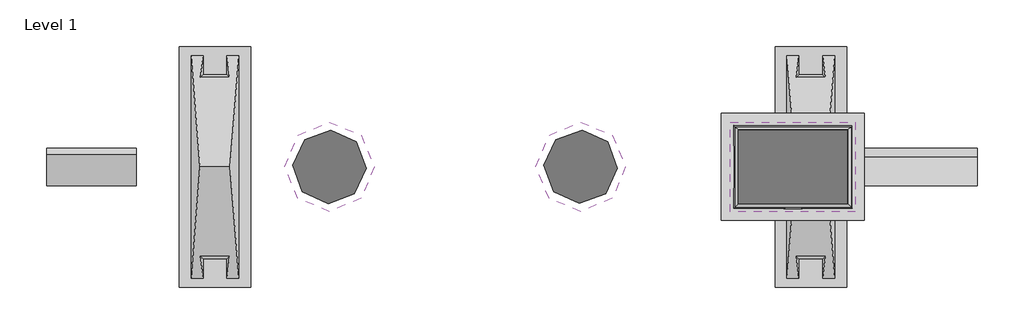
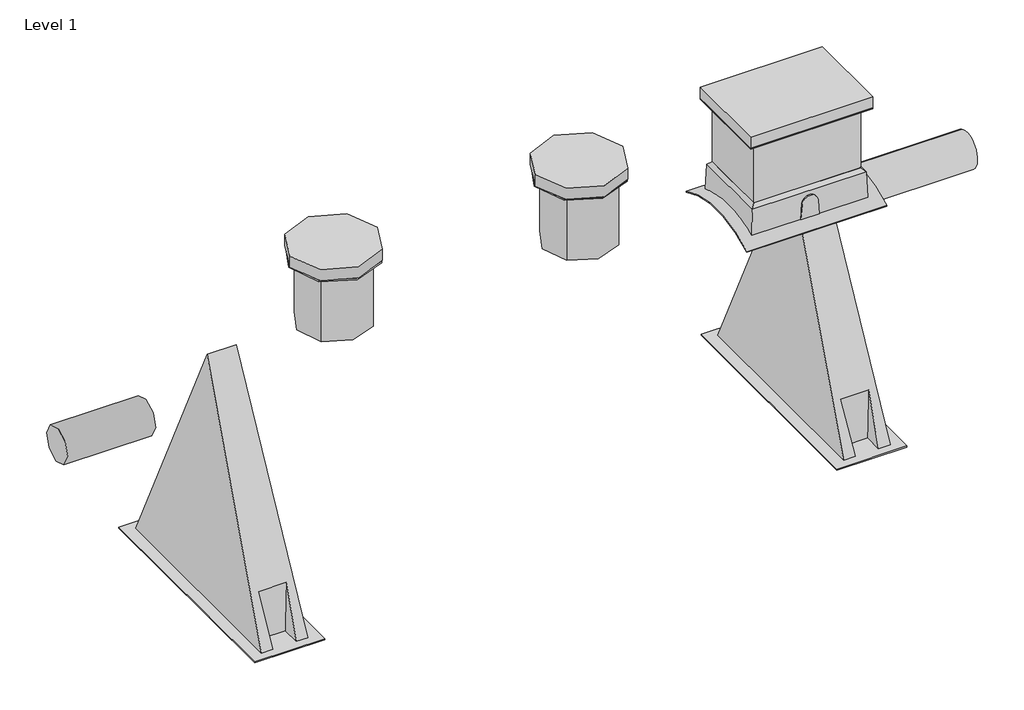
# One storey, incomplete: 11 proxies.
"""IFC4 building model written with IfcOpenShell, lengths in millimetres."""

import ifcopenshell
import ifcopenshell.guid

model = None  # the IFC model being written
_history = None  # IfcOwnerHistory: only IFC2X3 demands one
_inside = {}  # id of a spatial element -> (the spatial element, [elements in it])
_under = {}  # id of a project, library or spatial element -> (it, [spatial elements below it])
_declared = {}  # id of a project -> (the project, [libraries it declares])
_typed = {}  # id of a type object -> (the type object, [elements of that type])
_made_of = {}  # id of a material, layer set ... -> (it, [elements and type objects made of it])


def new_model(schema):
    """Start an empty IFC model of exactly this schema.

    Asked for "IFC4X3", IfcOpenShell would pick the latest addendum, in which some entities
    have other attributes; the version numbers below select the first issue.
    IFC2X3 requires an IfcOwnerHistory on every rooted entity: one is made here for all.
    """
    global model, _history
    if schema == "IFC4X3":
        model = ifcopenshell.file(schema_version=(4, 3, 0, 0))
    else:
        model = ifcopenshell.file(schema=schema)
    _inside.clear()
    _under.clear()
    _declared.clear()
    _typed.clear()
    _made_of.clear()
    _history = None
    if model.schema == "IFC2X3":
        org = make("IfcOrganization", Name="unknown")
        user = make(
            "IfcPersonAndOrganization",
            ThePerson=make("IfcPerson", FamilyName="unknown"),
            TheOrganization=org,
        )
        app = make(
            "IfcApplication",
            ApplicationDeveloper=org,
            Version="unknown",
            ApplicationFullName="unknown",
            ApplicationIdentifier="unknown",
        )
        _history = make(
            "IfcOwnerHistory",
            OwningUser=user,
            OwningApplication=app,
            ChangeAction="ADDED",
            CreationDate=0,
        )
    return model


def make(cls, **values):
    """One entity of the class cls with the attributes given. An attribute that is None is left unset."""
    return model.create_entity(
        cls, **{name: value for name, value in values.items() if value is not None}
    )


def rooted(cls, **values):
    """An entity with a GlobalId (a new one), such as an element, a storey or a relation."""
    return make(cls, GlobalId=ifcopenshell.guid.new(), OwnerHistory=_history, **values)


def si_unit(unit_type, name, prefix=None):
    """IfcSIUnit, for example si_unit("LENGTHUNIT", "METRE", prefix="MILLI")."""
    return make("IfcSIUnit", UnitType=unit_type, Prefix=prefix, Name=name)


def assignment(units):
    """IfcUnitAssignment: the units of a project."""
    return None if units is None else make("IfcUnitAssignment", Units=units)


def point(xyz):
    """IfcCartesianPoint."""
    return None if xyz is None else make("IfcCartesianPoint", Coordinates=xyz)


def direction(xyz):
    """IfcDirection."""
    return None if xyz is None else make("IfcDirection", DirectionRatios=xyz)


def frame(location, z_axis=None, x_axis=None):
    """IfcAxis2Placement3D, a coordinate frame: its origin and axes. An axis left out is left unset."""
    return make(
        "IfcAxis2Placement3D",
        Location=point(location),
        Axis=direction(z_axis),
        RefDirection=direction(x_axis),
    )


def frame_2d(location, x_axis=None):
    """IfcAxis2Placement2D, a coordinate frame in the plane: its origin and x axis."""
    return make(
        "IfcAxis2Placement2D", Location=point(location), RefDirection=direction(x_axis)
    )


def origin():
    """The frame at (0, 0, 0) with its axes left unset."""
    return frame((0.0, 0.0, 0.0))


def origin_2d():
    """The frame at (0, 0) in the plane with its x axis left unset."""
    return frame_2d((0.0, 0.0))


def place(relative_to, where):
    """IfcLocalPlacement: puts the frame where relative to a parent placement (None: the world)."""
    return make(
        "IfcLocalPlacement", PlacementRelTo=relative_to, RelativePlacement=where
    )


def context(
    kind, dimensions, precision=None, world=None, true_north=None, identifier=None
):
    """IfcGeometricRepresentationContext, for example the 3D "Model" context."""
    return make(
        "IfcGeometricRepresentationContext",
        ContextIdentifier=identifier,
        ContextType=kind,
        CoordinateSpaceDimension=dimensions,
        Precision=precision,
        WorldCoordinateSystem=world,
        TrueNorth=true_north,
    )


def project(units=None, contexts=None):
    """IfcProject with its units and contexts."""
    return rooted(
        "IfcProject",
        Name="project",
        RepresentationContexts=contexts,
        UnitsInContext=assignment(units),
    )


def spatial(cls, under=None, at=None, **own):
    """A site, building, storey or space (cls), placed at a placement, below another one or the project."""
    s = rooted(cls, ObjectPlacement=at, **own)
    if under is not None:
        _under.setdefault(under.id(), (under, []))[1].append(s)
    return s


def polyline(points):
    """IfcPolyline through the points."""
    return make("IfcPolyline", Points=[point(p) for p in points])


def circle_curve(where, radius):
    """IfcCircle in the frame where."""
    return make("IfcCircle", Position=where, Radius=radius)


def ellipse_curve(where, semi_axis1, semi_axis2):
    """IfcEllipse in the frame where."""
    return make(
        "IfcEllipse", Position=where, SemiAxis1=semi_axis1, SemiAxis2=semi_axis2
    )


def trimmed(basis, trim1, trim2, sense, master):
    """IfcTrimmedCurve: the piece of a basis curve between two trims."""
    return make(
        "IfcTrimmedCurve",
        BasisCurve=basis,
        Trim1=trim1,
        Trim2=trim2,
        SenseAgreement=sense,
        MasterRepresentation=master,
    )


def segment(curve, same_sense, transition):
    """IfcCompositeCurveSegment."""
    return make(
        "IfcCompositeCurveSegment",
        Transition=transition,
        SameSense=same_sense,
        ParentCurve=curve,
    )


def composite_curve(segments, self_intersect=None):
    """IfcCompositeCurve: segments joined end to end."""
    return make("IfcCompositeCurve", Segments=segments, SelfIntersect=self_intersect)


def outline(outer, holes=None, kind="AREA"):
    """IfcArbitraryClosedProfileDef: a profile drawn as a closed curve; with holes, ...WithVoids."""
    if holes is None:
        return make("IfcArbitraryClosedProfileDef", ProfileType=kind, OuterCurve=outer)
    return make(
        "IfcArbitraryProfileDefWithVoids",
        ProfileType=kind,
        OuterCurve=outer,
        InnerCurves=holes,
    )


def extrude(swept, where, along, depth):
    """IfcExtrudedAreaSolid: the profile swept, set in the frame where, extruded along a direction by depth."""
    return make(
        "IfcExtrudedAreaSolid",
        SweptArea=swept,
        Position=where,
        ExtrudedDirection=direction(along),
        Depth=depth,
    )


def faces_of(points, faces, orient=None, outer=None):
    """IfcFace entities. A face is a list of loops; a loop is a list of indices into points, from 0.

    orient and outer hold one flag for each loop. By default every Orientation is true, the
    first loop of a face is its IfcFaceOuterBound and the others are IfcFaceBound.
    """
    made = []
    for i, loops in enumerate(faces):
        bounds = []
        for j, loop in enumerate(loops):
            is_outer = j == 0 if outer is None else outer[i][j]
            bounds.append(
                make(
                    "IfcFaceOuterBound" if is_outer else "IfcFaceBound",
                    Bound=make("IfcPolyLoop", Polygon=[points[k] for k in loop]),
                    Orientation=True if orient is None else orient[i][j],
                )
            )
        made.append(make("IfcFace", Bounds=bounds))
    return made


def faceted_brep(points, faces, orient=None, outer=None, voids=None):
    """IfcFacetedBrep: a solid bounded by flat faces; with voids (closed shells), ...WithVoids."""
    shared = [point(p) for p in points]
    hull = make("IfcClosedShell", CfsFaces=faces_of(shared, faces, orient, outer))
    if voids is None:
        return make("IfcFacetedBrep", Outer=hull)
    return make(
        "IfcFacetedBrepWithVoids",
        Outer=hull,
        Voids=[
            make(cls, CfsFaces=faces_of(shared, fs, o, b)) for cls, fs, o, b in voids
        ],
    )


def shape(context_of_items, identifier, shape_type, items):
    """IfcShapeRepresentation: the items that make up one representation, for example the "Body"."""
    return make(
        "IfcShapeRepresentation",
        ContextOfItems=context_of_items,
        RepresentationIdentifier=identifier,
        RepresentationType=shape_type,
        Items=items,
    )


def source(mapping_origin, context_of_items, identifier, shape_type, items):
    """IfcRepresentationMap: a shape defined once, which mapped items show again and again."""
    return make(
        "IfcRepresentationMap",
        MappingOrigin=mapping_origin,
        MappedRepresentation=shape(context_of_items, identifier, shape_type, items),
    )


def transform(
    local_origin,
    x_axis=None,
    y_axis=None,
    z_axis=None,
    scale=None,
    scale2=None,
    scale3=None,
    uniform=True,
):
    """IfcCartesianTransformationOperator3D, or its non-uniform kind. x_axis, y_axis, z_axis: its Axis1, 2, 3."""
    if uniform:
        return make(
            "IfcCartesianTransformationOperator3D",
            Axis1=direction(x_axis),
            Axis2=direction(y_axis),
            LocalOrigin=point(local_origin),
            Scale=scale,
            Axis3=direction(z_axis),
        )
    return make(
        "IfcCartesianTransformationOperator3DnonUniform",
        Axis1=direction(x_axis),
        Axis2=direction(y_axis),
        LocalOrigin=point(local_origin),
        Scale=scale,
        Axis3=direction(z_axis),
        Scale2=scale2,
        Scale3=scale3,
    )


def mapped(mapping_source, mapping_target):
    """IfcMappedItem: shows the shape of a source again, moved by a transform."""
    return make(
        "IfcMappedItem", MappingSource=mapping_source, MappingTarget=mapping_target
    )


def made_of(thing, what):
    """Note that an element or type object is made of a material, layer set ...; save() writes the relation."""
    if what is not None:
        _made_of.setdefault(what.id(), (what, []))[1].append(thing)
    return thing


def element(
    cls,
    number,
    at=None,
    inside=None,
    cuts=None,
    type_object=None,
    material=None,
    context=None,
    identifier="Body",
    shape_type=None,
    held_by="IfcProductDefinitionShape",
    body=None,
    shapes=None,
    **own,
):
    """One element of the class cls, such as IfcWall. Its Tag is "e" and its number.

    at: its placement. inside: the storey or other place that contains it. cuts: it is an
    opening in that element (IfcRelVoidsElement). A single representation is given by context,
    identifier, shape_type and body (its items); several are given by shapes. held_by: the class
    of the entity that holds the representations. save() writes the other relations.
    """
    e = rooted(cls, Tag="e%d" % number, ObjectPlacement=at, **own)
    if body is not None:
        shapes = [shape(context, identifier, shape_type, body)]
    if shapes is not None:
        e.Representation = make(held_by, Representations=shapes)
    if inside is not None:
        _inside.setdefault(inside.id(), (inside, []))[1].append(e)
    if cuts is not None:
        rooted(
            "IfcRelVoidsElement", RelatingBuildingElement=cuts, RelatedOpeningElement=e
        )
    if type_object is not None:
        _typed.setdefault(type_object.id(), (type_object, []))[1].append(e)
    return made_of(e, material)


def aggregate(whole, parts):
    """IfcRelAggregates: a whole, such as a stair, and the parts it consists of."""
    return rooted("IfcRelAggregates", RelatingObject=whole, RelatedObjects=parts)


def save(model, path):
    """Write the relations noted so far, then the file.

    IfcRelAggregates (storeys below a building ...), IfcRelContainedInSpatialStructure (elements
    in a storey), IfcRelDefinesByType, IfcRelAssociatesMaterial and IfcRelDeclares: one each for
    every whole, place, type object, material and project.
    """
    for whole, parts in _under.values():
        aggregate(whole, parts)
    for where, things in _inside.values():
        rooted(
            "IfcRelContainedInSpatialStructure",
            RelatedElements=things,
            RelatingStructure=where,
        )
    for kind, things in _typed.values():
        rooted("IfcRelDefinesByType", RelatedObjects=things, RelatingType=kind)
    for what, things in _made_of.values():
        rooted("IfcRelAssociatesMaterial", RelatedObjects=things, RelatingMaterial=what)
    for by, libraries in _declared.values():
        rooted("IfcRelDeclares", RelatingContext=by, RelatedDefinitions=libraries)
    model.write(path)


def plane_surface(at):
    """IfcPlane: the flat surface through the origin of the frame at, square to its z axis."""
    return make("IfcPlane", Position=at)


def cylinder_surface(at, radius):
    """IfcCylindricalSurface: all points at the distance radius from the z axis of the frame at."""
    return make("IfcCylindricalSurface", Position=at, Radius=radius)


def revolved_surface(curve, axis_point, axis_direction):
    """IfcSurfaceOfRevolution: the curve turned about the line through axis_point along axis_direction."""
    return make(
        "IfcSurfaceOfRevolution",
        SweptCurve=make("IfcArbitraryOpenProfileDef", ProfileType="CURVE", Curve=curve),
        AxisPosition=make("IfcAxis1Placement", Location=point(axis_point), Axis=direction(axis_direction)),
    )


def advanced_brep(points, edges, surfaces, faces):
    """IfcAdvancedBrep: a solid bounded by faces that lie on surfaces and meet in shared edges.

    An edge is (start, end): straight between two places in points (the first is 0);
    or (start, end, curve); or (start, end, curve, False) where it runs against its curve.
    A face is (place in surfaces, loops), or (place, loops, False) where it looks against
    its surface's normal. A loop lists edges by number (the first is 1), with a minus sign
    where the edge is run from its end to its start. The first loop is the outer one.
    """
    corners = [point(p) for p in points]
    vertices = [make("IfcVertexPoint", VertexGeometry=c) for c in corners]
    made = []
    for start, end, *more in edges:
        made.append(
            make(
                "IfcEdgeCurve",
                EdgeStart=vertices[start],
                EdgeEnd=vertices[end],
                EdgeGeometry=more[0] if more else make("IfcPolyline", Points=[corners[start], corners[end]]),
                SameSense=more[1] if len(more) > 1 else True,
            )
        )
    hull = []
    for where, loops, *sense in faces:
        bounds = []
        for j, loop in enumerate(loops):
            ring = [make("IfcOrientedEdge", EdgeElement=made[abs(k) - 1], Orientation=k > 0) for k in loop]
            bounds.append(
                make(
                    "IfcFaceOuterBound" if j == 0 else "IfcFaceBound",
                    Bound=make("IfcEdgeLoop", EdgeList=ring),
                    Orientation=True,
                )
            )
        hull.append(make("IfcAdvancedFace", Bounds=bounds, FaceSurface=surfaces[where], SameSense=sense[0] if sense else True))
    return make("IfcAdvancedBrep", Outer=make("IfcClosedShell", CfsFaces=hull))


def generic_models_efd85da4(model_context):
    return source(origin(), model_context, "Body", "SweptSolid", [
        extrude(outline(polyline([(-375.0, 0.0), (-375.0, 100.0), (375.0, 100.0), (375.0, 0.0), (-375.0, 0.0)])), frame((0.0, 0.0, -525.0), z_axis=(0.0, 0.0, 1.0), x_axis=(1.0, 0.0, 0.0)), (0.0, 0.0, 1.0), 1050.0),
    ])


def generic_models_57929f39(model_context):
    return source(origin(), model_context, "Body", "Brep", [
        faceted_brep([(934.0, 0.0, 0.0), (0.0, 2118.0, 73.9621898), (0.0, 2118.0, 326.0378102), (934.0, 0.0, 400.0), (934.0, 0.0, 300.0), (750.3777149, 416.394004, 321.8222851), (750.3777149, 416.394004, 78.1777149), (934.0, 0.0, 100.0), (-934.0, 0.0, 400.0), (772.2, 0.0, 300.0), (772.2, 0.0, 100.0), (-934.0, 0.0, 0.0), (-934.0, 0.0, 100.0), (-750.3777149, 416.394004, 78.1777149), (-750.3777149, 416.394004, 321.8222851), (-934.0, 0.0, 300.0), (-772.2, 0.0, 100.0), (-772.2, 0.0, 300.0), (-1009.0, 0.0, 500.0), (1009.0, 0.0, 500.0), (1009.0, 0.0, -100.0), (-1009.0, 0.0, -100.0), (-1009.0, -10.0, 500.0), (-1009.0, -10.0, -100.0), (1009.0, -10.0, -100.0), (1009.0, -10.0, 500.0)], [[[0, 1, 2, 3, 4, 5, 6, 7]], [[3, 2, 8]], [[4, 9, 5]], [[9, 10, 6, 5]], [[10, 7, 6]], [[1, 11, 12, 13, 14, 15, 8, 2]], [[13, 16, 17, 14]], [[18, 19, 20, 21], [3, 8, 15, 17, 16, 12, 11, 0, 7, 10, 9, 4]], [[1, 0, 11]], [[14, 17, 15]], [[22, 23, 24, 25]], [[12, 16, 13]], [[19, 18, 22, 25]], [[20, 19, 25, 24]], [[21, 20, 24, 23]], [[18, 21, 23, 22]]]),
    ])


def generic_models_2a316d6d(model_context):
    return source(origin(), model_context, "Body", "SweptSolid", [
        extrude(outline(composite_curve([segment(trimmed(circle_curve(origin_2d(), 375.0), [point((0.0, 375.0))], [point((0.0, -375.0))], False, "CARTESIAN"), True, "CONTINUOUS"), segment(trimmed(circle_curve(origin_2d(), 375.0), [point((0.0, -375.0))], [point((0.0, 375.0))], False, "CARTESIAN"), True, "CONTINUOUS")], self_intersect=False)), frame((0.0, 0.0, 0.0), z_axis=(0.0, 1.0, 0.0), x_axis=(0.0, 0.0, 1.0)), (0.0, 0.0, 1.0), 100.0),
    ])


def generic_models_de51d8ae(model_context):
    return source(origin(), model_context, "Body", "AdvancedBrep", [
        advanced_brep(
        [(-375.0, 590.0, 0.0), (-375.0, 600.0, 0.0), (375.0, 600.0, 0.0), (375.0, 590.0, 0.0), (-308.0, 0.0, 0.0), (-308.0, 590.0, 0.0), (308.0, 590.0, 0.0), (308.0, 0.0, 0.0)],
        [
            (0, 1),
            (1, 2, circle_curve(frame((0.0, 600.0, 0.0), z_axis=(0.0, -1.0, 0.0), x_axis=(-1.0, 0.0, 0.0)), 375.0)),
            (2, 3),
            (3, 0, circle_curve(frame((0.0, 590.0, 0.0), z_axis=(0.0, 1.0, 0.0), x_axis=(-1.0, 0.0, 0.0)), 375.0)),
            (4, 5),
            (5, 6, circle_curve(frame((0.0, 590.0, 0.0), z_axis=(0.0, -1.0, 0.0), x_axis=(-1.0, 0.0, 0.0)), 308.0)),
            (6, 7),
            (7, 4, circle_curve(frame((0.0, 0.0, 0.0), z_axis=(0.0, 1.0, 0.0), x_axis=(-1.0, 0.0, 0.0)), 308.0)),
            (1, 2, circle_curve(frame((0.0, 600.0, 0.0), z_axis=(0.0, 1.0, 0.0), x_axis=(-1.0, 0.0, 0.0)), 375.0)),
            (7, 4, circle_curve(frame((0.0, 0.0, 0.0), z_axis=(0.0, -1.0, 0.0), x_axis=(-1.0, 0.0, 0.0)), 308.0)),
            (6, 5, circle_curve(frame((0.0, 590.0, 0.0), z_axis=(0.0, -1.0, 0.0), x_axis=(-1.0, 0.0, 0.0)), 308.0)),
            (3, 0, circle_curve(frame((0.0, 590.0, 0.0), z_axis=(0.0, -1.0, 0.0), x_axis=(-1.0, 0.0, 0.0)), 375.0)),
        ],
        [
            cylinder_surface(frame((0.0, 595.0, 0.0), z_axis=(0.0, 1.0, 0.0), x_axis=(-1.0, 0.0, 0.0)), 375.0),
            cylinder_surface(frame((0.0, 295.0, 0.0), z_axis=(0.0, 1.0, 0.0), x_axis=(-1.0, 0.0, 0.0)), 308.0),
            plane_surface(frame((-300.0, 600.0, 0.0), z_axis=(0.0, 1.0, 0.0), x_axis=(0.0, 0.0, 1.0))),
            plane_surface(frame((-308.0, 0.0, 0.0), z_axis=(0.0, -1.0, 0.0), x_axis=(0.0, 0.0, -1.0))),
            plane_surface(frame((-375.0, 590.0, 0.0), z_axis=(0.0, -1.0, 0.0), x_axis=(0.0, 0.0, -1.0))),
        ],
        [
            (0, [[1, 2, 3, 4]]),
            (1, [[5, 6, 7, 8]]),
            (2, [[9, -2]]),
            (3, [[10, -8]]),
            (1, [[-5, -10, -7, 11]]),
            (4, [[12, -4], [-11, -6]]),
            (0, [[-1, -12, -3, -9]]),
        ],
    ),
    ])


def generic_models_cbd79aaf(model_context):
    return source(origin(), model_context, "Body", "AdvancedBrep", [
        advanced_brep(
        [(296.4984069, 250.0, -446.4984069), (-296.4984069, 250.0, -446.4984069), (-296.4984069, 250.0, 446.4984069), (296.4984069, 250.0, 446.4984069), (298.0, 207.0, -448.0), (-298.0, 207.0, -448.0), (-298.0, 207.0, 448.0), (298.0, 207.0, 448.0), (-450.0, -99.8385062, 600.0), (450.0, -99.8385062, 600.0), (450.0, -99.8385062, -600.0), (-450.0, -99.8385062, -600.0), (-347.7562357, -50.8590545, -80.0415625), (-347.7562357, -50.8590545, -497.7562357), (347.7562357, -50.8590545, -497.7562357), (347.7562357, -50.8590545, 497.7562357), (-347.7562357, -50.8590545, 497.7562357), (-347.7562357, -50.8590545, 80.0415625), (-352.0, -52.5930793, 80.1802845), (-352.0, -52.5930793, -80.1802845), (-338.1192031, 178.0204704, -488.1192031), (338.1192031, 178.0204704, -488.1192031), (-342.353871, 77.447108, -69.7770695), (-342.353871, 77.447108, 69.7770695), (-338.1192031, 178.0204704, 488.1192031), (-309.1396735, 207.0, -459.1396735), (309.1396735, 207.0, -459.1396735), (338.1192031, 178.0204704, 488.1192031), (-309.1396735, 207.0, 459.1396735), (309.1396735, 207.0, 459.1396735), (-352.0, 77.447108, 69.7770695), (-450.0, -107.8600122, -600.0), (-450.0, -107.8600122, 600.0), (450.0, -107.8600122, -600.0), (450.0, -107.8600122, 600.0), (-352.0, 77.447108, -69.7770695)],
        [
            (0, 1),
            (1, 2),
            (2, 3),
            (3, 0),
            (0, 4),
            (4, 5),
            (5, 1),
            (5, 6),
            (6, 2),
            (3, 7),
            (7, 4),
            (6, 7),
            (8, 9, circle_curve(frame((0.0, -908.0, 600.0), z_axis=(0.0, 0.0, -1.0), x_axis=(0.48648648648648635, 0.8736881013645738, 0.0)), 925.0)),
            (9, 10),
            (10, 11, circle_curve(frame((0.0, -908.0, -600.0), z_axis=(0.0, 0.0, 1.0), x_axis=(0.48648648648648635, 0.8736881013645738, 0.0)), 925.0)),
            (11, 8),
            (12, 13),
            (13, 14, ellipse_curve(frame((0.0, -908.0, -533.8463808), z_axis=(0.0, 0.04206798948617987, -0.9991147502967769), x_axis=(0.0, 0.9991147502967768, 0.042067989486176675)), 925.8195815, 925.0)),
            (14, 15),
            (15, 16, ellipse_curve(frame((0.0, -908.0, 533.8463808), z_axis=(0.0, 0.04206798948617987, 0.9991147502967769), x_axis=(0.0, -0.9991147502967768, 0.042067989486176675)), 925.8195815, 925.0)),
            (16, 17),
            (17, 18, ellipse_curve(frame((0.0, -908.0, 148.6128381), z_axis=(0.0, 0.07974522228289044, 0.9968152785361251), x_axis=(0.0, -0.9968152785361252, 0.07974522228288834)), 927.9552791, 925.0)),
            (18, 19),
            (19, 12, ellipse_curve(frame((0.0, -908.0, -148.6128381), z_axis=(0.0, 0.0797452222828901, -0.9968152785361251), x_axis=(0.0, 0.9968152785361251, 0.07974522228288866)), 927.9552791, 925.0)),
            (13, 20),
            (20, 21),
            (21, 14),
            (12, 22),
            (22, 23, ellipse_curve(frame((-342.5889096, 71.8649424, 0.0), z_axis=(0.9991147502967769, -0.04206798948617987, 0.0), x_axis=(-0.042067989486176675, -0.9991147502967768, 0.0)), 70.0620224, 70.0)),
            (23, 17),
            (16, 24),
            (24, 20),
            (20, 25),
            (25, 26),
            (26, 21),
            (15, 27),
            (27, 24),
            (24, 28),
            (28, 25),
            (27, 21),
            (26, 29),
            (29, 27),
            (29, 28),
            (23, 30),
            (30, 18),
            (11, 31),
            (31, 32),
            (32, 8),
            (31, 33, circle_curve(frame((0.0, -908.0, -600.0), z_axis=(0.0, 0.0, -1.0), x_axis=(-0.49019607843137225, -0.8716121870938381, 0.0)), 918.0)),
            (33, 34),
            (34, 32, circle_curve(frame((0.0, -908.0, 600.0), z_axis=(0.0, 0.0, 1.0), x_axis=(-0.49019607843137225, -0.8716121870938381, 0.0)), 918.0)),
            (9, 34),
            (33, 10),
            (35, 19),
            (30, 35, circle_curve(frame((-352.0, 71.8649424, 0.0), z_axis=(-1.0, 0.0, 0.0), x_axis=(0.0, 0.07974522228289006, -0.996815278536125)), 70.0)),
            (22, 35),
        ],
        [
            plane_surface(frame((248.0, 250.0, -446.4984069), z_axis=(0.0, 1.0, 0.0), x_axis=(0.0, 0.0, 1.0))),
            plane_surface(frame((-248.0, 207.0, -448.0), z_axis=(0.0, 0.03489949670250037, -0.9993908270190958), x_axis=(0.0, 0.9993908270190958, 0.03489949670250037))),
            plane_surface(frame((-298.0, 207.0, 398.0), z_axis=(-0.9993908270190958, 0.03489949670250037, 0.0), x_axis=(0.03489949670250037, 0.9993908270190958, 0.0))),
            plane_surface(frame((298.0, 207.0, -398.0), z_axis=(0.9993908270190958, 0.03489949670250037, 0.0), x_axis=(-0.03489949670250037, 0.9993908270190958, 0.0))),
            plane_surface(frame((248.0, 207.0, 448.0), z_axis=(0.0, 0.03489949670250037, 0.9993908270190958), x_axis=(0.0, 0.9993908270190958, -0.03489949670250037))),
            cylinder_surface(frame((0.0, -908.0, 0.0), z_axis=(0.0, 0.0, 1.0), x_axis=(0.48648648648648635, 0.8736881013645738, 0.0)), 925.0),
            plane_surface(frame((-248.0, -299.4172684, -508.2218447), z_axis=(0.0, 0.04206798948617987, -0.9991147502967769), x_axis=(0.0, 0.9991147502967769, 0.04206798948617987))),
            plane_surface(frame((-358.2218447, -299.4172684, 398.0), z_axis=(-0.9991147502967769, 0.04206798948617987, 0.0), x_axis=(0.04206798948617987, 0.9991147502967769, 0.0))),
            plane_surface(frame((-248.0, 178.0204704, -488.1192031), z_axis=(0.0, 0.7071067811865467, -0.7071067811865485), x_axis=(0.0, 0.7071067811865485, 0.7071067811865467))),
            plane_surface(frame((248.0, -299.4172684, 508.2218447), z_axis=(0.0, 0.04206798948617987, 0.9991147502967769), x_axis=(0.0, 0.9991147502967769, -0.04206798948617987))),
            plane_surface(frame((-338.1192031, 178.0204704, 398.0), z_axis=(-0.7071067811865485, 0.7071067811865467, 0.0), x_axis=(0.7071067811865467, 0.7071067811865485, 0.0))),
            plane_surface(frame((338.1192031, 178.0204704, -398.0), z_axis=(0.7071067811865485, 0.7071067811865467, 0.0), x_axis=(-0.7071067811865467, 0.7071067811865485, 0.0))),
            plane_surface(frame((358.2218447, -299.4172684, -398.0), z_axis=(0.9991147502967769, 0.04206798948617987, 0.0), x_axis=(-0.04206798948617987, 0.9991147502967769, 0.0))),
            plane_surface(frame((248.0, 178.0204704, 488.1192031), z_axis=(0.0, 0.7071067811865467, 0.7071067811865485), x_axis=(0.0, 0.7071067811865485, -0.7071067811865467))),
            plane_surface(frame((248.0, 207.0, -459.1396735), z_axis=(0.0, 1.0, 0.0), x_axis=(0.0, 0.0, 1.0))),
            plane_surface(frame((0.0, -169.1602084, 89.5056548), z_axis=(0.0, 0.07974522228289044, 0.9968152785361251), x_axis=(0.0, 0.9968152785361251, -0.07974522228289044))),
            plane_surface(frame((-450.0, -99.8385062, 0.0), z_axis=(-1.0, 0.0, 0.0), x_axis=(0.0, -1.0, 0.0))),
            revolved_surface(polyline([(-449.9999999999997, -1708.1399877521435, 600.0), (-449.9999999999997, -1708.1399877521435, -600.0)]), (0.0, -908.0, 0.0), (0.0, 0.0, 1.0)),
            plane_surface(frame((450.0, -107.8600122, 0.0), z_axis=(1.0, 0.0, 0.0), x_axis=(0.0, 1.0, 0.0))),
            plane_surface(frame((-352.0, -13.647633, 0.0), z_axis=(-1.0, 0.0, 0.0), x_axis=(0.0, 0.0, -1.0))),
            cylinder_surface(frame((0.0, 71.8649424, 0.0), z_axis=(-0.9999999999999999, 0.0, 0.0), x_axis=(0.0, 0.07974522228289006, -0.996815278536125)), 70.0),
            plane_surface(frame((0.0, -45.4300061, 600.0), z_axis=(0.0, 0.0, 1.0), x_axis=(1.0, 0.0, 0.0))),
            plane_surface(frame((0.0, -45.4300061, -600.0), z_axis=(0.0, 0.0, -1.0), x_axis=(1.0, 0.0, 0.0))),
            plane_surface(frame((0.0, 77.447108, -69.7770695), z_axis=(0.0, 0.0797452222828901, -0.9968152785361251), x_axis=(0.0, -0.9968152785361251, -0.0797452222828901))),
        ],
        [
            (0, [[1, 2, 3, 4]]),
            (1, [[-1, 5, 6, 7]]),
            (2, [[-7, 8, 9, -2]]),
            (3, [[-4, 10, 11, -5]]),
            (4, [[-3, -9, 12, -10]]),
            (5, [[13, 14, 15, 16], [17, 18, 19, 20, 21, 22, 23, 24]]),
            (6, [[25, 26, 27, -18]]),
            (7, [[-17, 28, 29, 30, -21, 31, 32, -25]]),
            (8, [[-26, 33, 34, 35]]),
            (9, [[-20, 36, 37, -31]]),
            (10, [[-32, 38, 39, -33]]),
            (11, [[40, -35, 41, 42]]),
            (12, [[-27, -40, -36, -19]]),
            (13, [[-37, -42, 43, -38]]),
            (14, [[-34, -39, -43, -41], [-6, -11, -12, -8]]),
            (15, [[-30, 44, 45, -22]]),
            (16, [[-16, 46, 47, 48]]),
            (17, [[-47, 49, 50, 51]]),
            (18, [[-14, 52, -50, 53]]),
            (19, [[54, -23, -45, 55]]),
            (20, [[-55, -44, -29, 56]]),
            (21, [[-48, -51, -52, -13]]),
            (22, [[-46, -15, -53, -49]]),
            (23, [[-28, -24, -54, -56]]),
        ],
    ),
    ])


def generic_models_d9ee4f9d(model_context):
    return source(origin(), model_context, "Body", "Brep", [
        faceted_brep([(308.0, -600.0, -458.0), (308.0, -600.0, 458.0), (-308.0, -600.0, 458.0), (-308.0, -600.0, -458.0), (375.0, 0.0, -525.0), (-375.0, 0.0, -525.0), (-375.0, 0.0, 525.0), (375.0, 0.0, 525.0), (-308.0, -10.0, -458.0), (308.0, -10.0, -458.0), (-375.0, -10.0, -525.0), (375.0, -10.0, -525.0), (375.0, -10.0, 525.0), (-375.0, -10.0, 525.0), (-308.0, -10.0, 458.0), (308.0, -10.0, 458.0)], [[[0, 1, 2, 3]], [[4, 5, 6, 7]], [[0, 3, 8, 9]], [[10, 11, 12, 13], [9, 8, 14, 15]], [[3, 2, 14, 8]], [[2, 1, 15, 14]], [[0, 9, 15, 1]], [[5, 4, 11, 10]], [[6, 5, 10, 13]], [[7, 6, 13, 12]], [[4, 7, 12, 11]]]),
    ])


def iso_4065_pipe_dn315x2_5xs63_1365_7de0bab6(model_context):
    return source(origin(), model_context, "Body", "SweptSolid", [
        extrude(outline(composite_curve([segment(trimmed(circle_curve(origin_2d(), 157.5), [point((157.5, 0.0))], [point((-157.5, 0.0))], False, "CARTESIAN"), True, "CONTINUOUS"), segment(trimmed(circle_curve(origin_2d(), 157.5), [point((-157.5, 0.0))], [point((157.5, 0.0))], False, "CARTESIAN"), True, "CONTINUOUS")], self_intersect=False)), frame((0.0, 0.0, 0.0), z_axis=(1.0, 0.0, 0.0), x_axis=(0.0, 1.0, 0.0)), (0.0, 0.0, 1.0), 754.5),
    ])


def iso_4065_pipe_dn315x2_5xs63_1365_1_c6710c68(model_context):
    return source(origin(), model_context, "Body", "AdvancedBrep", [
        advanced_brep(
        [(0.0, -157.5, 0.0), (1048.5, -157.5, 0.0), (1048.5, 157.5, 0.0), (0.0, 157.5, 0.0), (1048.5, 79.1795725, -136.1500837)],
        [
            (0, 1),
            (1, 2, circle_curve(frame((1048.5, 0.0, 0.0), z_axis=(-1.0, 0.0, 0.0), x_axis=(0.0, -1.0, 0.0)), 157.5)),
            (2, 3),
            (3, 0, circle_curve(frame((0.0, 0.0, 0.0), z_axis=(1.0, 0.0, 0.0), x_axis=(0.0, -1.0, 0.0)), 157.5)),
            (3, 0, circle_curve(frame((0.0, 0.0, 0.0), z_axis=(-1.0, 0.0, 0.0), x_axis=(0.0, -1.0, 0.0)), 157.5)),
            (1, 4, circle_curve(frame((1048.5, 0.0, 0.0), z_axis=(1.0, 0.0, 0.0), x_axis=(0.0, -1.0, 0.0)), 157.5)),
            (4, 2, circle_curve(frame((1048.5, 0.0, 0.0), z_axis=(1.0, 0.0, 0.0), x_axis=(0.0, -1.0, 0.0)), 157.5)),
        ],
        [
            cylinder_surface(frame((0.0, 0.0, 0.0), z_axis=(1.0, 0.0, 0.0), x_axis=(0.0, -1.0, 0.0)), 157.5),
            plane_surface(frame((0.0, 0.0, 0.0), z_axis=(-1.0, 0.0, 0.0), x_axis=(0.0, 0.0, 1.0))),
            plane_surface(frame((1048.5, 0.0, 0.0), z_axis=(1.0, 0.0, 0.0), x_axis=(0.0, 0.5027274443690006, -0.8644449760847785))),
        ],
        [
            (0, [[1, 2, 3, 4]]),
            (1, [[5, -4]]),
            (2, [[6, 7, -2]]),
            (0, [[-1, -5, -3, -7, -6]]),
        ],
    ),
    ])


model = new_model("IFC4")

# Units and contexts
model_context = context("Model", 3, world=origin())
ifc_project = project(units=[si_unit("LENGTHUNIT", "METRE", prefix="MILLI")], contexts=[model_context])

# Site, building, storey
site = spatial("IfcSite", under=ifc_project)
building = spatial("IfcBuilding", under=site)
storey = spatial("IfcBuildingStorey", under=building, Name="Level 1", Elevation=0.0)

# Proxies
placement = place(None, origin())
generic_models_shape = generic_models_efd85da4(model_context)
element("IfcBuildingElementProxy", 1, Name="600x900mm Manway Cover-D", ObjectType="600x900mm Manway Cover-D", at=placement, inside=storey, context=model_context, shape_type="MappedRepresentation", body=[
    mapped(generic_models_shape, transform((4851.0000542, -6.6e-06, 1354.949303), x_axis=(0.0, -1.0, -7.592791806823e-09), y_axis=(0.0, -7.592791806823e-09, 1.0), z_axis=(-1.0, 0.0, 0.0))),
])
generic_models_2_shape = generic_models_57929f39(model_context)
element("IfcBuildingElementProxy", 2, Name="SU.HS.FOOT.1850", ObjectType="SU.HS.FOOT.1850", at=placement, inside=storey, context=model_context, shape_type="MappedRepresentation", body=[
    mapped(generic_models_2_shape, transform((-196.6683858, 0.0, -1304.0507911), x_axis=(0.0, 1.0, 0.0), y_axis=(0.0, 0.0, 1.0), z_axis=(1.0, 0.0, 0.0))),
])
element("IfcBuildingElementProxy", 3, Name="SU.HS.FOOT.1850", ObjectType="SU.HS.FOOT.1850", at=placement, inside=storey, context=model_context, shape_type="MappedRepresentation", body=[
    mapped(generic_models_2_shape, transform((4801.6532556, 0.0, -1304.0507911), x_axis=(0.0, 1.0, 0.0), y_axis=(0.0, 0.0, 1.0), z_axis=(1.0, 0.0, 0.0))),
])
generic_models_3_shape = generic_models_2a316d6d(model_context)
element("IfcBuildingElementProxy", 4, Name="600mmDia Manway Cover", ObjectType="600mmDia Manway Cover", at=placement, inside=storey, context=model_context, shape_type="MappedRepresentation", body=[
    mapped(generic_models_3_shape, transform((3071.0366149, 0.1199925, 1354.949303), x_axis=(-1.0, 0.0, 0.0), y_axis=(0.0, -7.592791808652e-09, 1.0), z_axis=(0.0, 1.0, 7.592791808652e-09))),
])
element("IfcBuildingElementProxy", 5, Name="600mmDia Manway Cover", ObjectType="600mmDia Manway Cover", at=placement, inside=storey, context=model_context, shape_type="MappedRepresentation", body=[
    mapped(generic_models_3_shape, transform((964.0000542, 0.0, 1354.9492089), x_axis=(-1.0, 0.0, 0.0), y_axis=(0.0, 0.0, 1.0), z_axis=(0.0, 1.0, 0.0))),
])
generic_models_4_shape = generic_models_de51d8ae(model_context)
element("IfcBuildingElementProxy", 6, Name="SU.600mmDia.ManwayRiser.600-10", ObjectType="SU.600mmDia.ManwayRiser.600-10", at=placement, inside=storey, context=model_context, shape_type="MappedRepresentation", body=[
    mapped(generic_models_4_shape, transform((964.0000542, 0.0, 754.9492089), x_axis=(0.7350844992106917, 0.6779755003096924, 0.0), y_axis=(0.0, 0.0, 0.9999999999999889), z_axis=(0.6779755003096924, -0.7350844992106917, 0.0))),
])
element("IfcBuildingElementProxy", 7, Name="SU.600mmDia.ManwayRiser.600-10", ObjectType="SU.600mmDia.ManwayRiser.600-10", at=placement, inside=storey, context=model_context, shape_type="MappedRepresentation", body=[
    mapped(generic_models_4_shape, transform((3071.0366149, 0.1199971, 754.949303), x_axis=(0.7350844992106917, 0.6779755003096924, 5.147726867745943e-09), y_axis=(0.0, -7.592791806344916e-09, 0.9999999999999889), z_axis=(0.6779755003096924, -0.7350844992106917, -5.581343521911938e-09))),
])
generic_models_5_shape = generic_models_cbd79aaf(model_context)
element("IfcBuildingElementProxy", 8, Name="SU.MRADAPTOR.1850.600Lx900W", ObjectType="SU.MRADAPTOR.1850.600Lx900W", at=placement, inside=storey, context=model_context, shape_type="MappedRepresentation", body=[
    mapped(generic_models_5_shape, transform((4851.0000542, 0.0, 587.9492089), x_axis=(0.0, 1.0, 0.0), y_axis=(0.0, 0.0, 1.0), z_axis=(1.0, 0.0, 0.0))),
])
generic_models_6_shape = generic_models_d9ee4f9d(model_context)
element("IfcBuildingElementProxy", 9, Name="600x900 - 600mm Manway Riser", ObjectType="600x900 - 600mm Manway Riser", at=placement, inside=storey, context=model_context, shape_type="MappedRepresentation", body=[
    mapped(generic_models_6_shape, transform((4851.0000542, -6.6e-06, 1354.949303), x_axis=(0.0, -1.0, -7.592791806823e-09), y_axis=(0.0, -7.592791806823e-09, 1.0), z_axis=(-1.0, 0.0, 0.0))),
])
iso_4065_pipe_dn315x2_5xs63_1365_shape = iso_4065_pipe_dn315x2_5xs63_1365_7de0bab6(model_context)
element("IfcBuildingElementProxy", 10, Name="ISO 4065 Pipe DN315x2.5xS63 - 1365", ObjectType="ISO 4065 Pipe DN315x2.5xS63 - 1365", at=placement, inside=storey, context=model_context, shape_type="MappedRepresentation", body=[
    mapped(iso_4065_pipe_dn315x2_5xs63_1365_shape, transform((-654.9999458, 0.0, 442.9492089), x_axis=(-1.0000000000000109, 0.0, 0.0), y_axis=(0.0, -0.643467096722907, -0.7654737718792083), z_axis=(0.0, -0.7654737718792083, 0.643467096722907))),
])
iso_4065_pipe_dn315x2_5xs63_1365_1_shape = iso_4065_pipe_dn315x2_5xs63_1365_1_c6710c68(model_context)
element("IfcBuildingElementProxy", 11, Name="ISO 4065 Pipe DN315x2.5xS63 - 1365_1", ObjectType="ISO 4065 Pipe DN315x2.5xS63 - 1365_1", at=placement, inside=storey, context=model_context, shape_type="MappedRepresentation", body=[
    mapped(iso_4065_pipe_dn315x2_5xs63_1365_1_shape, transform((5351.0556098, 0.0, 390.9492089), x_axis=(0.9999999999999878, 0.0, 0.0), y_axis=(0.0, 0.5027274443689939, 0.8644449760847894), z_axis=(0.0, -0.8644449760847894, 0.5027274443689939))),
])

save(model, "model.ifc")
